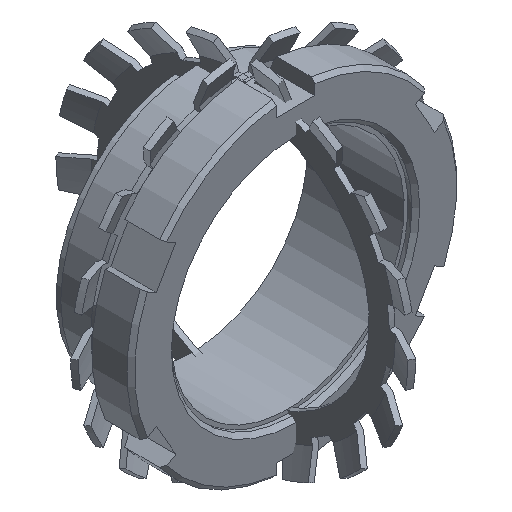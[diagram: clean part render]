
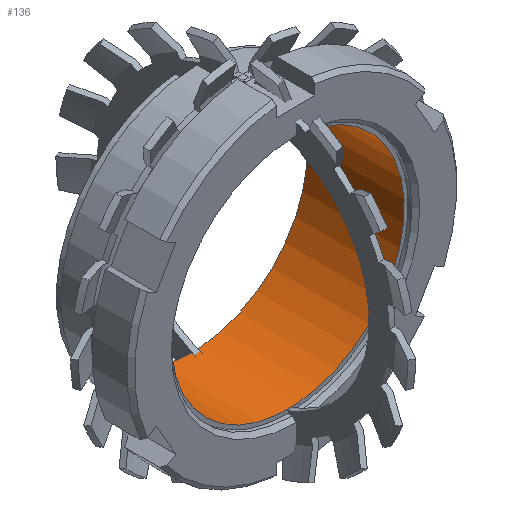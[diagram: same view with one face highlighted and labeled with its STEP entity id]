
A CAD part, isometric view. The second image highlights one B-rep face of the part: STEP entity #136.
In plain terms, the highlighted cylindrical face has radius 30 mm (diameter 60 mm), a partial arc.
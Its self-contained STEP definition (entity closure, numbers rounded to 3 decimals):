
#136 = ADVANCED_FACE( '', ( #280 ), #281, .F. );
#280 = FACE_OUTER_BOUND( '', #440, .T. );
#281 = CYLINDRICAL_SURFACE( '', #441, 30. );
#440 = EDGE_LOOP( '', ( #845, #846, #847, #848 ) );
#441 = AXIS2_PLACEMENT_3D( '', #849, #850, #851 );
#845 = ORIENTED_EDGE( '', *, *, #1387, .F. );
#846 = ORIENTED_EDGE( '', *, *, #1388, .F. );
#847 = ORIENTED_EDGE( '', *, *, #1349, .T. );
#848 = ORIENTED_EDGE( '', *, *, #1270, .T. );
#849 = CARTESIAN_POINT( '', ( 0., -60., 0. ) );
#850 = DIRECTION( '', ( 0., 1., 0. ) );
#851 = DIRECTION( '', ( 0., 0., -1. ) );
#1270 = EDGE_CURVE( '', #1658, #1656, #1659, .T. );
#1349 = EDGE_CURVE( '', #1784, #1658, #1794, .T. );
#1387 = EDGE_CURVE( '', #1846, #1656, #1847, .T. );
#1388 = EDGE_CURVE( '', #1784, #1846, #1848, .T. );
#1656 = VERTEX_POINT( '', #2866 );
#1658 = VERTEX_POINT( '', #2869 );
#1659 = CIRCLE( '', #2870, 30. );
#1784 = VERTEX_POINT( '', #3117 );
#1794 = LINE( '', #3137, #3138 );
#1846 = VERTEX_POINT( '', #3215 );
#1847 = LINE( '', #3216, #3217 );
#1848 = CIRCLE( '', #3218, 30. );
#2866 = CARTESIAN_POINT( '', ( 4., -11.5, 29.732 ) );
#2869 = CARTESIAN_POINT( '', ( -4., -11.5, 29.732 ) );
#2870 = AXIS2_PLACEMENT_3D( '', #3623, #3624, #3625 );
#3117 = CARTESIAN_POINT( '', ( -4., 13.5, 29.732 ) );
#3137 = CARTESIAN_POINT( '', ( -4., -60., 29.732 ) );
#3138 = VECTOR( '', #3697, 1000. );
#3215 = CARTESIAN_POINT( '', ( 4., 13.5, 29.732 ) );
#3216 = CARTESIAN_POINT( '', ( 4., -60., 29.732 ) );
#3217 = VECTOR( '', #3735, 1000. );
#3218 = AXIS2_PLACEMENT_3D( '', #3736, #3737, #3738 );
#3623 = CARTESIAN_POINT( '', ( 0., -11.5, 0. ) );
#3624 = DIRECTION( '', ( 0., -1., 0. ) );
#3625 = DIRECTION( '', ( 0., 0., -1. ) );
#3697 = DIRECTION( '', ( 0., -1., 0. ) );
#3735 = DIRECTION( '', ( 0., -1., 0. ) );
#3736 = CARTESIAN_POINT( '', ( 0., 13.5, 0. ) );
#3737 = DIRECTION( '', ( 0., -1., 0. ) );
#3738 = DIRECTION( '', ( 0., 0., -1. ) );
